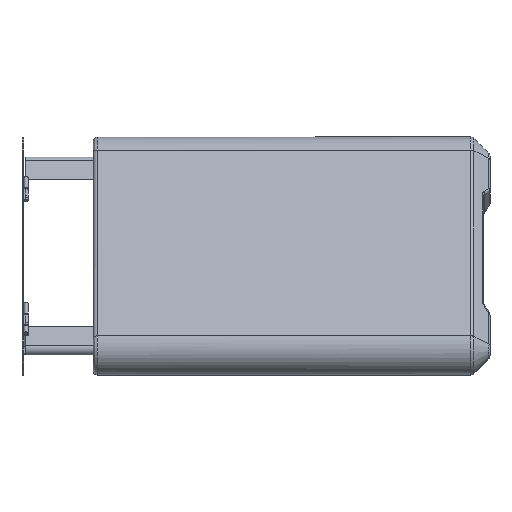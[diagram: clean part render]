
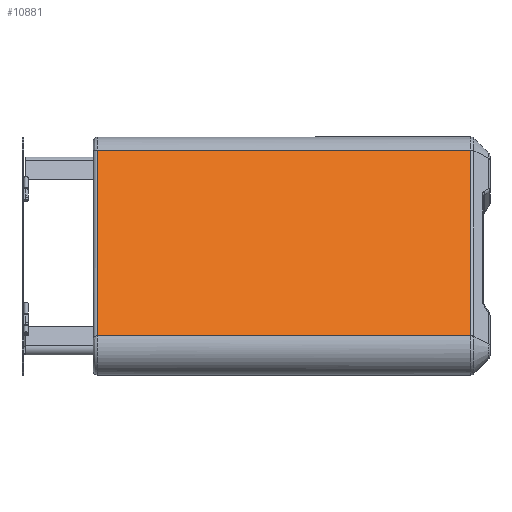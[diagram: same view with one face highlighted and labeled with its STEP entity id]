
A CAD part, left-side view. The second image highlights one B-rep face of the part: STEP entity #10881.
In plain terms, the highlighted planar face has unit normal (-0.866, 0, 0.5).
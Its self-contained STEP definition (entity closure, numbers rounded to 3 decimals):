
#282=PLANE('',#11725);
#836=FACE_OUTER_BOUND('',#1475,.T.);
#1475=EDGE_LOOP('',(#7596,#7597,#7598,#7599));
#2176=LINE('',#17828,#3433);
#2177=LINE('',#17830,#3434);
#2178=LINE('',#17832,#3435);
#2179=LINE('',#17833,#3436);
#3433=VECTOR('',#12699,1000.);
#3434=VECTOR('',#12700,1000.);
#3435=VECTOR('',#12701,1000.);
#3436=VECTOR('',#12702,10.);
#4948=VERTEX_POINT('',#17826);
#4949=VERTEX_POINT('',#17827);
#4950=VERTEX_POINT('',#17829);
#4951=VERTEX_POINT('',#17831);
#5974=EDGE_CURVE('',#4948,#4949,#2176,.T.);
#5975=EDGE_CURVE('',#4949,#4950,#2177,.T.);
#5976=EDGE_CURVE('',#4951,#4950,#2178,.T.);
#5977=EDGE_CURVE('',#4951,#4948,#2179,.T.);
#7596=ORIENTED_EDGE('',*,*,#5974,.T.);
#7597=ORIENTED_EDGE('',*,*,#5975,.T.);
#7598=ORIENTED_EDGE('',*,*,#5976,.F.);
#7599=ORIENTED_EDGE('',*,*,#5977,.T.);
#10881=ADVANCED_FACE('',(#836),#282,.F.);
#11725=AXIS2_PLACEMENT_3D('',#17825,#12697,#12698);
#12697=DIRECTION('center_axis',(0.866,0.,-0.5));
#12698=DIRECTION('ref_axis',(-0.5,0.,-0.866));
#12699=DIRECTION('',(0.,-1.,0.));
#12700=DIRECTION('',(0.5,0.,0.866));
#12701=DIRECTION('',(0.,-1.,0.));
#12702=DIRECTION('',(-0.5,0.,-0.866));
#17825=CARTESIAN_POINT('Origin',(-298.038,925.,-112.073));
#17826=CARTESIAN_POINT('',(-298.039,900.792,-112.073));
#17827=CARTESIAN_POINT('',(-298.038,44.142,-112.073));
#17828=CARTESIAN_POINT('',(-298.038,925.,-112.073));
#17829=CARTESIAN_POINT('',(-51.962,44.142,314.145));
#17830=CARTESIAN_POINT('',(-51.962,44.142,314.145));
#17831=CARTESIAN_POINT('',(-51.962,900.792,314.145));
#17832=CARTESIAN_POINT('',(-51.962,925.,314.145));
#17833=CARTESIAN_POINT('',(-51.962,900.792,314.145));
